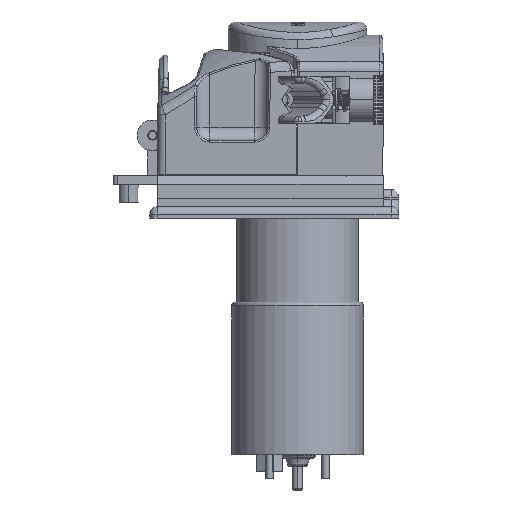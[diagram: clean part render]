
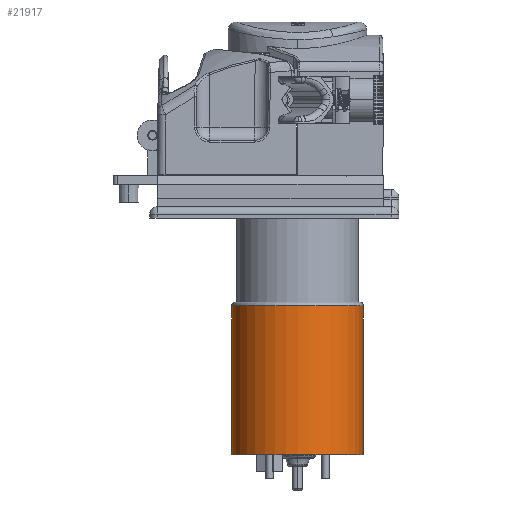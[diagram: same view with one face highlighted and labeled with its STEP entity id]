
A CAD part, left-side view. The second image highlights one B-rep face of the part: STEP entity #21917.
In plain terms, the highlighted cylindrical face has radius 17.25 mm (diameter 34.5 mm), a partial arc.
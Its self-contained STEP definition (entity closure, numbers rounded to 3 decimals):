
#1087 = DIRECTION ( 'NONE',  ( 0., 0., -1. ) ) ;
#1885 = CARTESIAN_POINT ( 'NONE',  ( 0., 0., -70.15 ) ) ;
#4973 = EDGE_CURVE ( 'NONE', #48886, #36956, #24654, .T. ) ;
#4990 = VERTEX_POINT ( 'NONE', #44799 ) ;
#5589 = DIRECTION ( 'NONE',  ( 0., 0., -1. ) ) ;
#6709 = DIRECTION ( 'NONE',  ( 0., 1., 0. ) ) ;
#10467 = CARTESIAN_POINT ( 'NONE',  ( 0., 17.25, -70.15 ) ) ;
#15242 = DIRECTION ( 'NONE',  ( 0., 0., -1. ) ) ;
#17714 = ORIENTED_EDGE ( 'NONE', *, *, #35646, .T. ) ;
#20473 = DIRECTION ( 'NONE',  ( 0., 1., 0. ) ) ;
#21917 = ADVANCED_FACE ( 'NONE', ( #61228 ), #47007, .T. ) ;
#22480 = VECTOR ( 'NONE', #15242, 1000. ) ;
#23743 = CARTESIAN_POINT ( 'NONE',  ( 0., -17.25, -70.15 ) ) ;
#24654 = CIRCLE ( 'NONE', #44025, 17.25 ) ;
#26382 = CIRCLE ( 'NONE', #39631, 17.25 ) ;
#28158 = VECTOR ( 'NONE', #28543, 1000. ) ;
#28543 = DIRECTION ( 'NONE',  ( 0., 0., -1. ) ) ;
#29355 = CARTESIAN_POINT ( 'NONE',  ( 0., -17.25, -70.15 ) ) ;
#31470 = ORIENTED_EDGE ( 'NONE', *, *, #4973, .F. ) ;
#34102 = CARTESIAN_POINT ( 'NONE',  ( 0., 0., -31.15 ) ) ;
#35231 = DIRECTION ( 'NONE',  ( 0., 0., -1. ) ) ;
#35623 = ORIENTED_EDGE ( 'NONE', *, *, #56548, .T. ) ;
#35646 = EDGE_CURVE ( 'NONE', #4990, #37357, #26382, .T. ) ;
#36956 = VERTEX_POINT ( 'NONE', #40014 ) ;
#37139 = EDGE_LOOP ( 'NONE', ( #40456, #17714, #35623, #31470 ) ) ;
#37357 = VERTEX_POINT ( 'NONE', #38913 ) ;
#38862 = DIRECTION ( 'NONE',  ( 0., -1., 0. ) ) ;
#38913 = CARTESIAN_POINT ( 'NONE',  ( 0., 17.25, -31.15 ) ) ;
#39391 = CARTESIAN_POINT ( 'NONE',  ( 0., 0., -70.15 ) ) ;
#39631 = AXIS2_PLACEMENT_3D ( 'NONE', #34102, #5589, #38862 ) ;
#40014 = CARTESIAN_POINT ( 'NONE',  ( 0., 17.25, -70.15 ) ) ;
#40456 = ORIENTED_EDGE ( 'NONE', *, *, #43004, .F. ) ;
#40851 = LINE ( 'NONE', #23743, #28158 ) ;
#43004 = EDGE_CURVE ( 'NONE', #4990, #48886, #40851, .T. ) ;
#44025 = AXIS2_PLACEMENT_3D ( 'NONE', #1885, #35231, #6709 ) ;
#44799 = CARTESIAN_POINT ( 'NONE',  ( 0., -17.25, -31.15 ) ) ;
#47007 = CYLINDRICAL_SURFACE ( 'NONE', #57187, 17.25 ) ;
#48886 = VERTEX_POINT ( 'NONE', #29355 ) ;
#56548 = EDGE_CURVE ( 'NONE', #37357, #36956, #59090, .T. ) ;
#57187 = AXIS2_PLACEMENT_3D ( 'NONE', #39391, #1087, #20473 ) ;
#59090 = LINE ( 'NONE', #10467, #22480 ) ;
#61228 = FACE_OUTER_BOUND ( 'NONE', #37139, .T. ) ;
